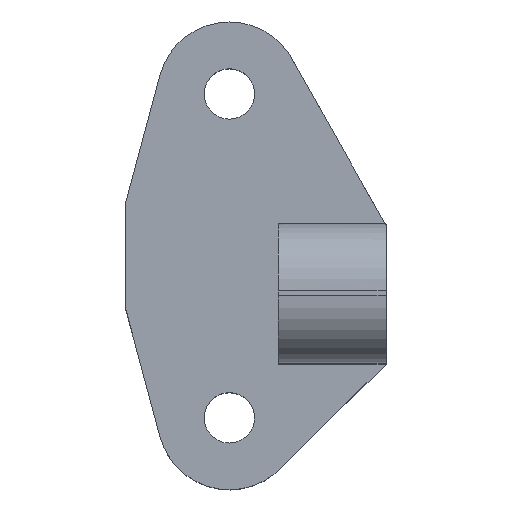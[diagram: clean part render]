
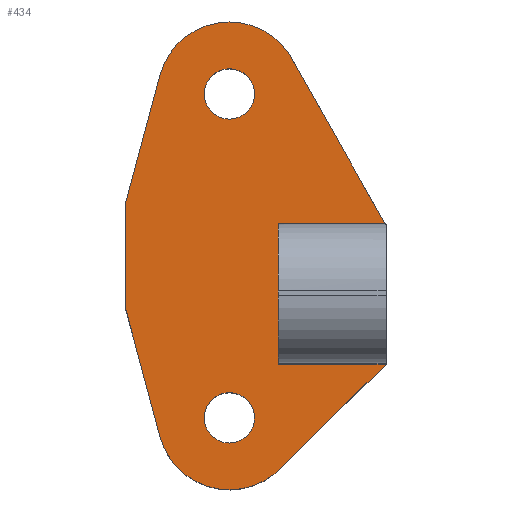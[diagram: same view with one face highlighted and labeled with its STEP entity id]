
A CAD part, top view. The second image highlights one B-rep face of the part: STEP entity #434.
In plain terms, the highlighted planar face has unit normal (0, 0, 1) as drawn and (0, 1, 0) by its records, which use the part's own axes.
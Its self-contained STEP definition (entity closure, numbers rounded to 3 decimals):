
#21=FACE_BOUND('',#84,.T.);
#22=FACE_BOUND('',#85,.T.);
#37=PLANE('',#488);
#59=FACE_OUTER_BOUND('',#83,.T.);
#83=EDGE_LOOP('',(#384,#385,#386,#387,#388,#389,#390,#391,#392,#393));
#84=EDGE_LOOP('',(#394));
#85=EDGE_LOOP('',(#395));
#102=LINE('',#658,#144);
#107=LINE('',#673,#149);
#113=LINE('',#685,#155);
#118=LINE('',#703,#160);
#120=LINE('',#708,#162);
#124=LINE('',#720,#166);
#127=LINE('',#726,#169);
#130=LINE('',#732,#172);
#144=VECTOR('',#527,10.);
#149=VECTOR('',#542,10.);
#155=VECTOR('',#558,10.);
#160=VECTOR('',#577,10.);
#162=VECTOR('',#581,10.);
#166=VECTOR('',#593,10.);
#169=VECTOR('',#598,10.);
#172=VECTOR('',#603,10.);
#182=CIRCLE('',#472,1.4);
#184=CIRCLE('',#475,1.4);
#187=CIRCLE('',#481,4.);
#189=CIRCLE('',#487,4.);
#197=VERTEX_POINT('',#635);
#205=VERTEX_POINT('',#655);
#206=VERTEX_POINT('',#657);
#212=VERTEX_POINT('',#683);
#213=VERTEX_POINT('',#687);
#215=VERTEX_POINT('',#693);
#218=VERTEX_POINT('',#701);
#220=VERTEX_POINT('',#707);
#222=VERTEX_POINT('',#713);
#224=VERTEX_POINT('',#719);
#226=VERTEX_POINT('',#725);
#228=VERTEX_POINT('',#731);
#247=EDGE_CURVE('',#206,#205,#102,.T.);
#255=EDGE_CURVE('',#197,#206,#107,.T.);
#261=EDGE_CURVE('',#205,#212,#113,.T.);
#262=EDGE_CURVE('',#213,#213,#182,.T.);
#265=EDGE_CURVE('',#215,#215,#184,.T.);
#270=EDGE_CURVE('',#212,#218,#118,.T.);
#272=EDGE_CURVE('',#220,#197,#120,.T.);
#275=EDGE_CURVE('',#222,#220,#187,.T.);
#278=EDGE_CURVE('',#224,#222,#124,.T.);
#281=EDGE_CURVE('',#226,#224,#127,.T.);
#284=EDGE_CURVE('',#228,#226,#130,.T.);
#287=EDGE_CURVE('',#218,#228,#189,.T.);
#384=ORIENTED_EDGE('',*,*,#261,.T.);
#385=ORIENTED_EDGE('',*,*,#270,.T.);
#386=ORIENTED_EDGE('',*,*,#287,.T.);
#387=ORIENTED_EDGE('',*,*,#284,.T.);
#388=ORIENTED_EDGE('',*,*,#281,.T.);
#389=ORIENTED_EDGE('',*,*,#278,.T.);
#390=ORIENTED_EDGE('',*,*,#275,.T.);
#391=ORIENTED_EDGE('',*,*,#272,.T.);
#392=ORIENTED_EDGE('',*,*,#255,.T.);
#393=ORIENTED_EDGE('',*,*,#247,.T.);
#394=ORIENTED_EDGE('',*,*,#265,.T.);
#395=ORIENTED_EDGE('',*,*,#262,.T.);
#434=ADVANCED_FACE('',(#59,#21,#22),#37,.T.);
#472=AXIS2_PLACEMENT_3D('',#688,#561,#562);
#475=AXIS2_PLACEMENT_3D('',#694,#568,#569);
#481=AXIS2_PLACEMENT_3D('',#714,#587,#588);
#487=AXIS2_PLACEMENT_3D('',#736,#609,#610);
#488=AXIS2_PLACEMENT_3D('',#737,#611,#612);
#527=DIRECTION('',(0.,0.,-1.));
#542=DIRECTION('',(-1.,0.,0.));
#558=DIRECTION('',(1.,0.,0.));
#561=DIRECTION('center_axis',(0.,-1.,0.));
#562=DIRECTION('ref_axis',(-1.,0.,0.));
#568=DIRECTION('center_axis',(0.,-1.,0.));
#569=DIRECTION('ref_axis',(-1.,0.,0.));
#577=DIRECTION('',(-0.492,0.,-0.871));
#581=DIRECTION('',(0.712,0.,-0.702));
#587=DIRECTION('center_axis',(0.,1.,0.));
#588=DIRECTION('ref_axis',(-0.966,0.,0.259));
#593=DIRECTION('',(0.259,0.,0.966));
#598=DIRECTION('',(0.,0.,1.));
#603=DIRECTION('',(-0.259,0.,0.966));
#609=DIRECTION('center_axis',(0.,1.,0.));
#610=DIRECTION('ref_axis',(0.966,0.,-0.259));
#611=DIRECTION('center_axis',(0.,1.,0.));
#612=DIRECTION('ref_axis',(-1.,0.,0.));
#635=CARTESIAN_POINT('',(-19.487,-26.987,-134.29));
#655=CARTESIAN_POINT('',(-25.487,-26.987,-142.065));
#657=CARTESIAN_POINT('',(-25.487,-26.987,-134.29));
#658=CARTESIAN_POINT('',(-25.487,-26.987,-141.186));
#673=CARTESIAN_POINT('',(-26.101,-26.987,-134.29));
#683=CARTESIAN_POINT('',(-19.523,-26.987,-142.065));
#685=CARTESIAN_POINT('',(-23.12,-26.987,-142.065));
#687=CARTESIAN_POINT('',(-26.795,-26.987,-131.307));
#688=CARTESIAN_POINT('Origin',(-28.195,-26.987,-131.307));
#693=CARTESIAN_POINT('',(-26.795,-26.987,-149.307));
#694=CARTESIAN_POINT('Origin',(-28.195,-26.987,-149.307));
#701=CARTESIAN_POINT('',(-24.888,-26.987,-151.557));
#703=CARTESIAN_POINT('',(-24.888,-26.987,-151.557));
#707=CARTESIAN_POINT('',(-25.235,-26.987,-128.617));
#708=CARTESIAN_POINT('',(-19.487,-26.987,-134.29));
#713=CARTESIAN_POINT('',(-32.059,-26.987,-130.271));
#714=CARTESIAN_POINT('Origin',(-28.195,-26.987,-131.307));
#719=CARTESIAN_POINT('',(-33.945,-26.987,-137.307));
#720=CARTESIAN_POINT('',(-33.945,-26.987,-137.307));
#725=CARTESIAN_POINT('',(-33.945,-26.987,-143.307));
#726=CARTESIAN_POINT('',(-33.945,-26.987,-143.307));
#731=CARTESIAN_POINT('',(-32.059,-26.987,-150.343));
#732=CARTESIAN_POINT('',(-32.059,-26.987,-150.343));
#736=CARTESIAN_POINT('Origin',(-28.195,-26.987,-149.307));
#737=CARTESIAN_POINT('Origin',(-26.716,-26.987,-140.307));
